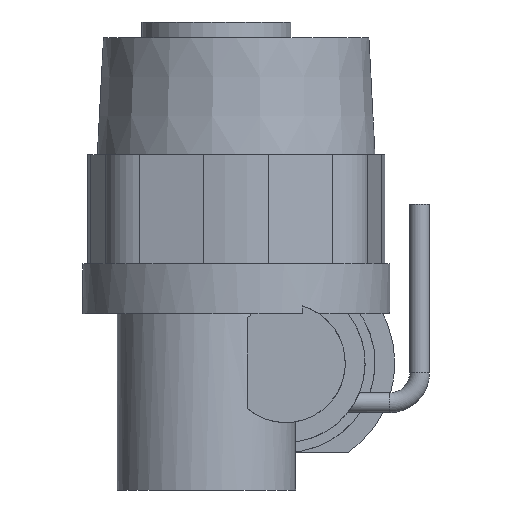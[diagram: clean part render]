
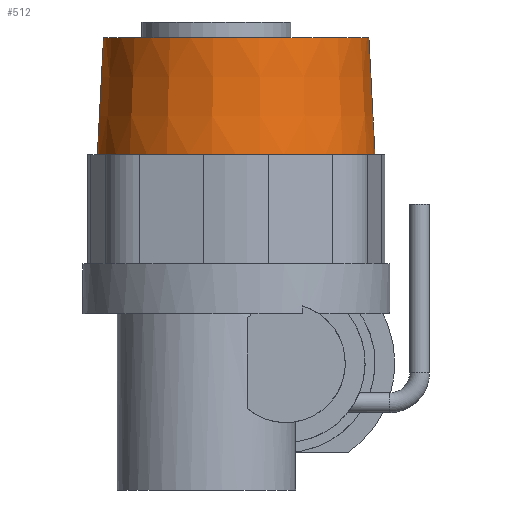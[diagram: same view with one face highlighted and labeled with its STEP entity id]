
A CAD part, front view. The second image highlights one B-rep face of the part: STEP entity #512.
In plain terms, the highlighted conical face has half-angle 3 degrees and reference radius 68.454 mm.
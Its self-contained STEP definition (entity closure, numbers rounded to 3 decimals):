
#512=ADVANCED_FACE('',(#1262,#1264),#1266,.T.);
#1262=FACE_OUTER_BOUND('',#1263,.T.);
#1263=EDGE_LOOP('',(#1800));
#1264=FACE_OUTER_BOUND('',#1265,.T.);
#1265=EDGE_LOOP('',(#1801));
#1266=CONICAL_SURFACE('',#1267,68.454,0.052);
#1267=AXIS2_PLACEMENT_3D('',#1268,#1269,#1270);
#1268=CARTESIAN_POINT('',(0.,0.,84.5));
#1269=DIRECTION('',(-0.,-0.,-1.));
#1270=DIRECTION('',(1.,0.,-0.));
#1800=ORIENTED_EDGE('',*,*,#2078,.F.);
#1801=ORIENTED_EDGE('',*,*,#2071,.T.);
#2071=EDGE_CURVE('',#2343,#2343,#2344,.T.);
#2078=EDGE_CURVE('',#2357,#2357,#2358,.T.);
#2343=VERTEX_POINT('',#3329);
#2344=CIRCLE('',#3330,70.);
#2357=VERTEX_POINT('',#3364);
#2358=CIRCLE('',#3365,66.908);
#3329=CARTESIAN_POINT('',(-70.,0.,55.));
#3330=AXIS2_PLACEMENT_3D('',#3331,#3332,#3333);
#3331=CARTESIAN_POINT('',(0.,0.,55.));
#3332=DIRECTION('',(0.,0.,1.));
#3333=DIRECTION('',(-1.,0.,0.));
#3364=CARTESIAN_POINT('',(-66.908,0.,114.));
#3365=AXIS2_PLACEMENT_3D('',#3366,#3367,#3368);
#3366=CARTESIAN_POINT('',(0.,0.,114.));
#3367=DIRECTION('',(0.,0.,1.));
#3368=DIRECTION('',(-1.,0.,0.));
